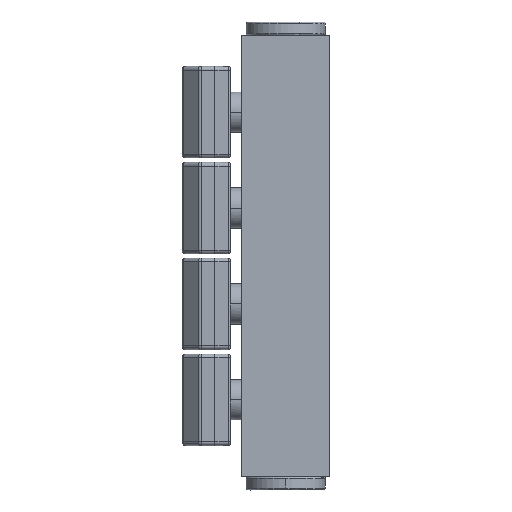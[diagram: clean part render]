
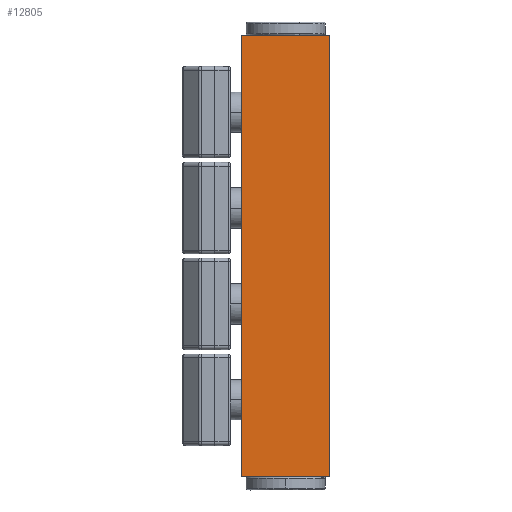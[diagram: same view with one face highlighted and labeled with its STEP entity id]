
A CAD part, left-side view. The second image highlights one B-rep face of the part: STEP entity #12805.
In plain terms, the highlighted planar face has unit normal (-1, 0, 0).
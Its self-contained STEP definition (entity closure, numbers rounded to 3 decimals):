
#5067 = CARTESIAN_POINT ( 'NONE',  ( 145.703, -155.507, -47.449 ) ) ;
#5068 = LINE ( 'NONE', #5067, #5152 ) ;
#5122 = CARTESIAN_POINT ( 'NONE',  ( 145.703, -155.507, 10.051 ) ) ;
#5151 = DIRECTION ( 'NONE',  ( 0., 0., -1. ) ) ;
#5152 = VECTOR ( 'NONE', #5151, 1000. ) ;
#12787 = VERTEX_POINT ( 'NONE', #34395 ) ;
#12805 = ADVANCED_FACE ( 'NONE', ( #25933 ), #25889, .T. ) ;
#12806 = EDGE_LOOP ( 'NONE', ( #14670, #14640, #14749, #14759 ) ) ;
#12891 = EDGE_CURVE ( 'NONE', #12787, #31725, #27372, .T. ) ;
#14492 = EDGE_CURVE ( 'NONE', #12787, #14507, #25684, .T. ) ;
#14507 = VERTEX_POINT ( 'NONE', #25792 ) ;
#14640 = ORIENTED_EDGE ( 'NONE', *, *, #14492, .F. ) ;
#14658 = EDGE_CURVE ( 'NONE', #14507, #31285, #26177, .T. ) ;
#14670 = ORIENTED_EDGE ( 'NONE', *, *, #14658, .F. ) ;
#14749 = ORIENTED_EDGE ( 'NONE', *, *, #12891, .T. ) ;
#14759 = ORIENTED_EDGE ( 'NONE', *, *, #31641, .T. ) ;
#25683 = CARTESIAN_POINT ( 'NONE',  ( 145.703, -178.507, -47.449 ) ) ;
#25684 = LINE ( 'NONE', #25683, #25708 ) ;
#25707 = DIRECTION ( 'NONE',  ( 0., 0., -1. ) ) ;
#25708 = VECTOR ( 'NONE', #25707, 1000. ) ;
#25792 = CARTESIAN_POINT ( 'NONE',  ( 145.703, -178.507, -104.949 ) ) ;
#25852 = AXIS2_PLACEMENT_3D ( 'NONE', #25883, #25882, #25881 ) ;
#25881 = DIRECTION ( 'NONE',  ( 0., 0., 1. ) ) ;
#25882 = DIRECTION ( 'NONE',  ( -1., 0., 0. ) ) ;
#25883 = CARTESIAN_POINT ( 'NONE',  ( 145.703, -178.507, -104.949 ) ) ;
#25889 = PLANE ( 'NONE',  #25852 ) ;
#25933 = FACE_OUTER_BOUND ( 'NONE', #12806, .T. ) ;
#26139 = DIRECTION ( 'NONE',  ( 0., 1., 0. ) ) ;
#26169 = CARTESIAN_POINT ( 'NONE',  ( 145.703, -167.007, -104.949 ) ) ;
#26177 = LINE ( 'NONE', #26169, #26180 ) ;
#26180 = VECTOR ( 'NONE', #26139, 1000. ) ;
#27369 = DIRECTION ( 'NONE',  ( 0., 1., 0. ) ) ;
#27370 = VECTOR ( 'NONE', #27369, 1000. ) ;
#27371 = CARTESIAN_POINT ( 'NONE',  ( 145.703, -167.007, 10.051 ) ) ;
#27372 = LINE ( 'NONE', #27371, #27370 ) ;
#30547 = CARTESIAN_POINT ( 'NONE',  ( 145.703, -155.507, -104.949 ) ) ;
#31285 = VERTEX_POINT ( 'NONE', #30547 ) ;
#31641 = EDGE_CURVE ( 'NONE', #31725, #31285, #5068, .T. ) ;
#31725 = VERTEX_POINT ( 'NONE', #5122 ) ;
#34395 = CARTESIAN_POINT ( 'NONE',  ( 145.703, -178.507, 10.051 ) ) ;
